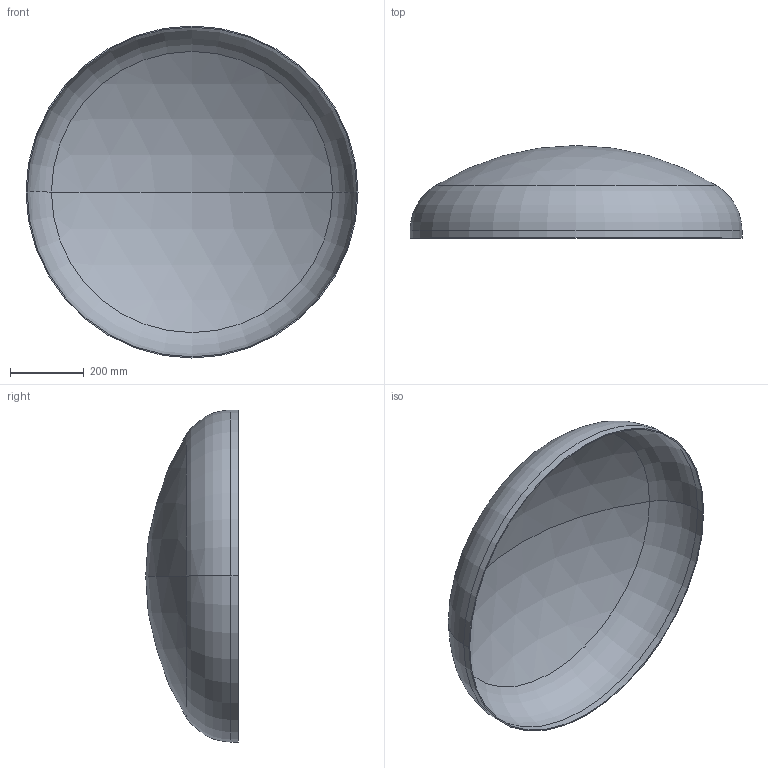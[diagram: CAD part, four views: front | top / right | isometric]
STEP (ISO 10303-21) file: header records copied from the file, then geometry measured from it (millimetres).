
FILE_DESCRIPTION (( 'STEP AP203' ), '1' );
FILE_NAME ('DIN 28013 Korbbogenform_-_Boden DIN 28013 - 900 x 20 - I - s=3.step', '2016-07-01T08:24:17', ( '' ), ( '' ), 'SwSTEP 2.0', 'SolidWorks 2013', '' );
FILE_SCHEMA (( 'CONFIG_CONTROL_DESIGN' ));
Length unit declared in the file: millimetre
Products named in the file (1): DIN 28013 Korbbogenform_-_Boden DIN 28013 - 900 x 20 - I - s=3
Bounding box: 900 x 250.91 x 900 mm (x, y, z)
Volume: 2806062.5 mm3; surface area: 1879180.5 mm2
Topology: 1 solids, 1 shells, 13 faces, 24 edges, 14 vertices
Faces by surface type: torus 4, cylinder 4, sphere 4, plane 1
Entity records: 407 total; most frequent: DIRECTION 72, CARTESIAN_POINT 52, ORIENTED_EDGE 48, AXIS2_PLACEMENT_3D 34, EDGE_CURVE 24, CIRCLE 20, VERTEX_POINT 14, EDGE_LOOP 14
